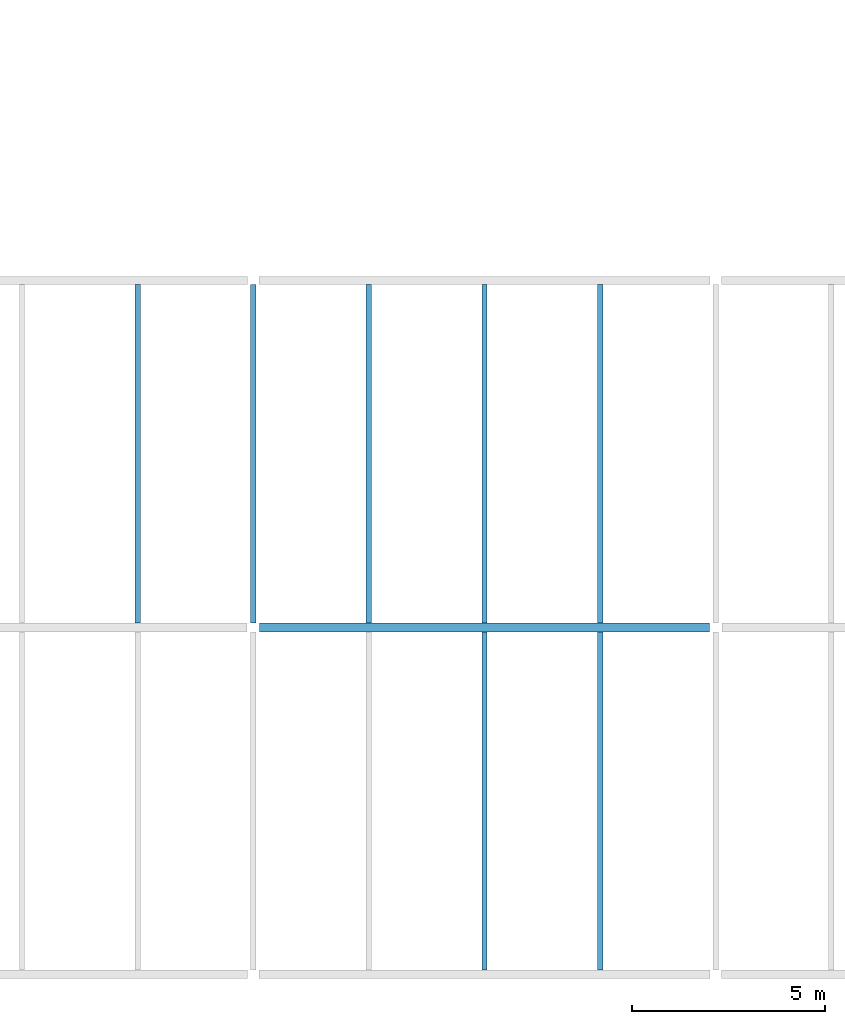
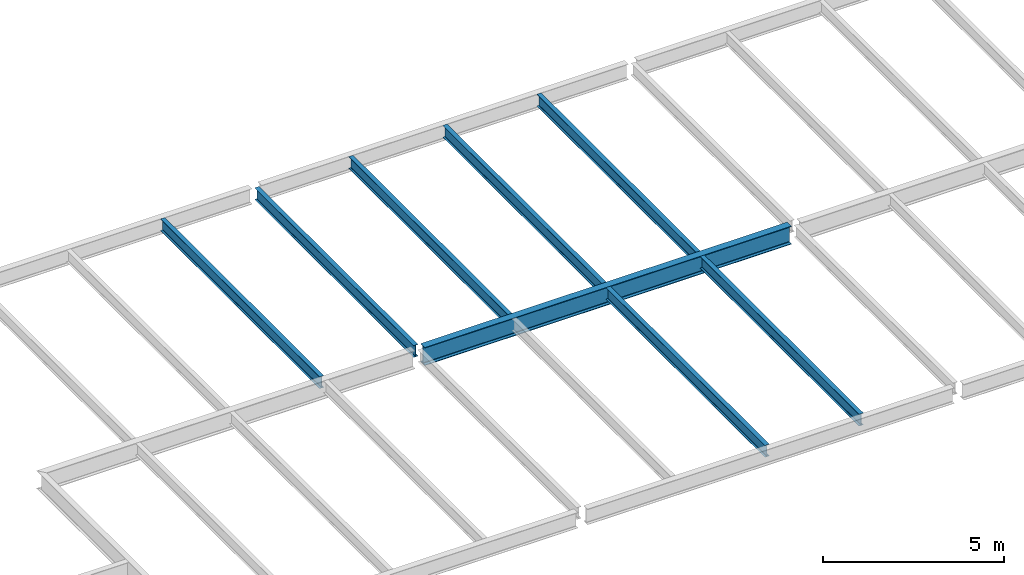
# One storey, part 14 of 23: 8 beams.
"""IFC2X3 building model written with IfcOpenShell, lengths in millimetres."""

from ifc_helpers import new_model, si_unit, origin, place, context, project, spatial, faceted_brep, material, element, save


model = new_model("IFC2X3")

# Units and contexts
context_of_model = context(None, 3, precision=1e-05, world=origin())
ifc_project = project(units=[si_unit("LENGTHUNIT", "METRE", prefix="MILLI")], contexts=[context_of_model])

# Building, storey
building = spatial("IfcBuilding", under=ifc_project, Name="Building", CompositionType="ELEMENT")
storey = spatial("IfcBuildingStorey", under=building, Name="FL5-FRM", CompositionType="ELEMENT")

# Beams
ifc_material_1 = material(Name="A992")
beam_1_placement = place(None, origin())
element("IfcBeam", 1, at=beam_1_placement, inside=storey, material=ifc_material_1, Name="Column582", context=context_of_model, shape_type="Brep", body=[
    faceted_brep([(24157.0, 17885.5, 17261.0), (24157.0, 18114.5, 17261.0), (35843.0, 18114.5, 17261.0), (35843.0, 17885.5, 17261.0), (24157.0, 18114.5, 17280.6), (35843.0, 18114.5, 17280.6), (24157.0, 18018.6, 17280.6), (35843.0, 18018.6, 17280.6), (24157.0, 18015.4, 17281.0), (35843.0, 18015.4, 17281.0), (24157.0, 18012.3, 17282.3), (35843.0, 18012.3, 17282.3), (24157.0, 18009.7, 17284.3), (35843.0, 18009.7, 17284.3), (24157.0, 18007.7, 17287.0), (35843.0, 18007.7, 17287.0), (24157.0, 18006.4, 17290.0), (35843.0, 18006.4, 17290.0), (24157.0, 18005.9, 17293.3), (35843.0, 18005.9, 17293.3), (24157.0, 18005.9, 17840.7), (35843.0, 18005.9, 17840.7), (24157.0, 18006.4, 17844.0), (35843.0, 18006.4, 17844.0), (24157.0, 18007.7, 17847.0), (35843.0, 18007.7, 17847.0), (24157.0, 18009.7, 17849.7), (35843.0, 18009.7, 17849.7), (24157.0, 18012.3, 17851.7), (35843.0, 18012.3, 17851.7), (24157.0, 18015.4, 17853.0), (35843.0, 18015.4, 17853.0), (24157.0, 18018.6, 17853.4), (35843.0, 18018.6, 17853.4), (24157.0, 18114.5, 17853.4), (35843.0, 18114.5, 17853.4), (24157.0, 18114.5, 17873.0), (35843.0, 18114.5, 17873.0), (24157.0, 17885.5, 17873.0), (35843.0, 17885.5, 17873.0), (24157.0, 17885.5, 17853.4), (35843.0, 17885.5, 17853.4), (24157.0, 17981.4, 17853.4), (35843.0, 17981.4, 17853.4), (24157.0, 17984.6, 17853.0), (35843.0, 17984.6, 17853.0), (24157.0, 17987.7, 17851.7), (35843.0, 17987.7, 17851.7), (24157.0, 17990.3, 17849.7), (35843.0, 17990.3, 17849.7), (24157.0, 17992.3, 17847.0), (35843.0, 17992.3, 17847.0), (24157.0, 17993.6, 17844.0), (35843.0, 17993.6, 17844.0), (24157.0, 17994.1, 17840.7), (35843.0, 17994.1, 17840.7), (24157.0, 17994.1, 17293.3), (35843.0, 17994.1, 17293.3), (24157.0, 17993.6, 17290.0), (35843.0, 17993.6, 17290.0), (24157.0, 17992.3, 17287.0), (35843.0, 17992.3, 17287.0), (24157.0, 17990.3, 17284.3), (35843.0, 17990.3, 17284.3), (24157.0, 17987.7, 17282.3), (35843.0, 17987.7, 17282.3), (24157.0, 17984.6, 17281.0), (35843.0, 17984.6, 17281.0), (24157.0, 17981.4, 17280.6), (35843.0, 17981.4, 17280.6), (24157.0, 17885.5, 17280.6), (35843.0, 17885.5, 17280.6)], [[[0, 1, 2, 3]], [[1, 4, 5, 2]], [[4, 6, 7, 5]], [[6, 8, 9, 7]], [[8, 10, 11, 9]], [[10, 12, 13, 11]], [[12, 14, 15, 13]], [[14, 16, 17, 15]], [[16, 18, 19, 17]], [[18, 20, 21, 19]], [[20, 22, 23, 21]], [[22, 24, 25, 23]], [[24, 26, 27, 25]], [[26, 28, 29, 27]], [[28, 30, 31, 29]], [[30, 32, 33, 31]], [[32, 34, 35, 33]], [[34, 36, 37, 35]], [[36, 38, 39, 37]], [[38, 40, 41, 39]], [[40, 42, 43, 41]], [[42, 44, 45, 43]], [[44, 46, 47, 45]], [[46, 48, 49, 47]], [[48, 50, 51, 49]], [[50, 52, 53, 51]], [[52, 54, 55, 53]], [[54, 56, 57, 55]], [[56, 58, 59, 57]], [[58, 60, 61, 59]], [[60, 62, 63, 61]], [[62, 64, 65, 63]], [[64, 66, 67, 65]], [[66, 68, 69, 67]], [[68, 70, 71, 69]], [[70, 0, 3, 71]], [[0, 70, 68, 66, 64, 62, 60, 58, 56, 54, 52, 50, 48, 46, 44, 42, 40, 38, 36, 34, 32, 30, 28, 26, 24, 22, 20, 18, 16, 14, 12, 10, 8, 6, 4, 1]], [[3, 2, 5, 7, 9, 11, 13, 15, 17, 19, 21, 23, 25, 27, 29, 31, 33, 35, 37, 39, 41, 43, 45, 47, 49, 51, 53, 55, 57, 59, 61, 63, 65, 67, 69, 71]]]),
])
ifc_material_2 = material(Name="A992")
beam_2_placement = place(None, origin())
element("IfcBeam", 2, at=beam_2_placement, inside=storey, material=ifc_material_2, Name="B802", context=context_of_model, shape_type="Brep", body=[
    faceted_brep([(26930.0, 26895.5, 17474.0), (27070.0, 26895.5, 17474.0), (27070.0, 18114.5, 17474.0), (26930.0, 18114.5, 17474.0), (27070.0, 26895.5, 17482.8), (27070.0, 18114.5, 17482.8), (27013.4, 26895.5, 17482.8), (27013.4, 18114.5, 17482.8), (27010.8, 26895.5, 17483.1), (27010.8, 18114.5, 17483.1), (27008.3, 26895.5, 17484.2), (27008.3, 18114.5, 17484.2), (27006.2, 26895.5, 17485.8), (27006.2, 18114.5, 17485.8), (27004.6, 26895.5, 17487.9), (27004.6, 18114.5, 17487.9), (27003.5, 26895.5, 17490.4), (27003.5, 18114.5, 17490.4), (27003.2, 26895.5, 17493.0), (27003.2, 18114.5, 17493.0), (27003.2, 26895.5, 17854.0), (27003.2, 18114.5, 17854.0), (27003.5, 26895.5, 17856.6), (27003.5, 18114.5, 17856.6), (27004.6, 26895.5, 17859.1), (27004.6, 18114.5, 17859.1), (27006.2, 26895.5, 17861.2), (27006.2, 18114.5, 17861.2), (27008.3, 26895.5, 17862.8), (27008.3, 18114.5, 17862.8), (27010.8, 26895.5, 17863.9), (27010.8, 18114.5, 17863.9), (27013.4, 26895.5, 17864.2), (27013.4, 18114.5, 17864.2), (27070.0, 26895.5, 17864.2), (27070.0, 18114.5, 17864.2), (27070.0, 26895.5, 17873.0), (27070.0, 18114.5, 17873.0), (26930.0, 26895.5, 17873.0), (26930.0, 18114.5, 17873.0), (26930.0, 26895.5, 17864.2), (26930.0, 18114.5, 17864.2), (26986.6, 26895.5, 17864.2), (26986.6, 18114.5, 17864.2), (26989.2, 26895.5, 17863.9), (26989.2, 18114.5, 17863.9), (26991.7, 26895.5, 17862.8), (26991.7, 18114.5, 17862.8), (26993.8, 26895.5, 17861.2), (26993.8, 18114.5, 17861.2), (26995.4, 26895.5, 17859.1), (26995.4, 18114.5, 17859.1), (26996.5, 26895.5, 17856.6), (26996.5, 18114.5, 17856.6), (26996.8, 26895.5, 17854.0), (26996.8, 18114.5, 17854.0), (26996.8, 26895.5, 17493.0), (26996.8, 18114.5, 17493.0), (26996.5, 26895.5, 17490.4), (26996.5, 18114.5, 17490.4), (26995.4, 26895.5, 17487.9), (26995.4, 18114.5, 17487.9), (26993.8, 26895.5, 17485.8), (26993.8, 18114.5, 17485.8), (26991.7, 26895.5, 17484.2), (26991.7, 18114.5, 17484.2), (26989.2, 26895.5, 17483.1), (26989.2, 18114.5, 17483.1), (26986.6, 26895.5, 17482.8), (26986.6, 18114.5, 17482.8), (26930.0, 26895.5, 17482.8), (26930.0, 18114.5, 17482.8)], [[[0, 1, 2, 3]], [[1, 4, 5, 2]], [[4, 6, 7, 5]], [[6, 8, 9, 7]], [[8, 10, 11, 9]], [[10, 12, 13, 11]], [[12, 14, 15, 13]], [[14, 16, 17, 15]], [[16, 18, 19, 17]], [[18, 20, 21, 19]], [[20, 22, 23, 21]], [[22, 24, 25, 23]], [[24, 26, 27, 25]], [[26, 28, 29, 27]], [[28, 30, 31, 29]], [[30, 32, 33, 31]], [[32, 34, 35, 33]], [[34, 36, 37, 35]], [[36, 38, 39, 37]], [[38, 40, 41, 39]], [[40, 42, 43, 41]], [[42, 44, 45, 43]], [[44, 46, 47, 45]], [[46, 48, 49, 47]], [[48, 50, 51, 49]], [[50, 52, 53, 51]], [[52, 54, 55, 53]], [[54, 56, 57, 55]], [[56, 58, 59, 57]], [[58, 60, 61, 59]], [[60, 62, 63, 61]], [[62, 64, 65, 63]], [[64, 66, 67, 65]], [[66, 68, 69, 67]], [[68, 70, 71, 69]], [[70, 0, 3, 71]], [[0, 70, 68, 66, 64, 62, 60, 58, 56, 54, 52, 50, 48, 46, 44, 42, 40, 38, 36, 34, 32, 30, 28, 26, 24, 22, 20, 18, 16, 14, 12, 10, 8, 6, 4, 1]], [[3, 2, 5, 7, 9, 11, 13, 15, 17, 19, 21, 23, 25, 27, 29, 31, 33, 35, 37, 39, 41, 43, 45, 47, 49, 51, 53, 55, 57, 59, 61, 63, 65, 67, 69, 71]]]),
])
ifc_material_3 = material(Name="A992")
beam_3_placement = place(None, origin())
element("IfcBeam", 3, at=beam_3_placement, inside=storey, material=ifc_material_3, Name="B804", context=context_of_model, shape_type="Brep", body=[
    faceted_brep([(30070.0, 9104.5, 17474.0), (29930.0, 9104.5, 17474.0), (29930.0, 17885.5, 17474.0), (30070.0, 17885.5, 17474.0), (29930.0, 9104.5, 17482.8), (29930.0, 17885.5, 17482.8), (29986.6, 9104.5, 17482.8), (29986.6, 17885.5, 17482.8), (29989.2, 9104.5, 17483.1), (29989.2, 17885.5, 17483.1), (29991.7, 9104.5, 17484.2), (29991.7, 17885.5, 17484.2), (29993.8, 9104.5, 17485.8), (29993.8, 17885.5, 17485.8), (29995.4, 9104.5, 17487.9), (29995.4, 17885.5, 17487.9), (29996.5, 9104.5, 17490.4), (29996.5, 17885.5, 17490.4), (29996.8, 9104.5, 17493.0), (29996.8, 17885.5, 17493.0), (29996.8, 9104.5, 17854.0), (29996.8, 17885.5, 17854.0), (29996.5, 9104.5, 17856.6), (29996.5, 17885.5, 17856.6), (29995.4, 9104.5, 17859.1), (29995.4, 17885.5, 17859.1), (29993.8, 9104.5, 17861.2), (29993.8, 17885.5, 17861.2), (29991.7, 9104.5, 17862.8), (29991.7, 17885.5, 17862.8), (29989.2, 9104.5, 17863.9), (29989.2, 17885.5, 17863.9), (29986.6, 9104.5, 17864.2), (29986.6, 17885.5, 17864.2), (29930.0, 9104.5, 17864.2), (29930.0, 17885.5, 17864.2), (29930.0, 9104.5, 17873.0), (29930.0, 17885.5, 17873.0), (30070.0, 9104.5, 17873.0), (30070.0, 17885.5, 17873.0), (30070.0, 9104.5, 17864.2), (30070.0, 17885.5, 17864.2), (30013.4, 9104.5, 17864.2), (30013.4, 17885.5, 17864.2), (30010.8, 9104.5, 17863.9), (30010.8, 17885.5, 17863.9), (30008.3, 9104.5, 17862.8), (30008.3, 17885.5, 17862.8), (30006.2, 9104.5, 17861.2), (30006.2, 17885.5, 17861.2), (30004.6, 9104.5, 17859.1), (30004.6, 17885.5, 17859.1), (30003.5, 9104.5, 17856.6), (30003.5, 17885.5, 17856.6), (30003.2, 9104.5, 17854.0), (30003.2, 17885.5, 17854.0), (30003.2, 9104.5, 17493.0), (30003.2, 17885.5, 17493.0), (30003.5, 9104.5, 17490.4), (30003.5, 17885.5, 17490.4), (30004.6, 9104.5, 17487.9), (30004.6, 17885.5, 17487.9), (30006.2, 9104.5, 17485.8), (30006.2, 17885.5, 17485.8), (30008.3, 9104.5, 17484.2), (30008.3, 17885.5, 17484.2), (30010.8, 9104.5, 17483.1), (30010.8, 17885.5, 17483.1), (30013.4, 9104.5, 17482.8), (30013.4, 17885.5, 17482.8), (30070.0, 9104.5, 17482.8), (30070.0, 17885.5, 17482.8)], [[[0, 1, 2, 3]], [[1, 4, 5, 2]], [[4, 6, 7, 5]], [[6, 8, 9, 7]], [[8, 10, 11, 9]], [[10, 12, 13, 11]], [[12, 14, 15, 13]], [[14, 16, 17, 15]], [[16, 18, 19, 17]], [[18, 20, 21, 19]], [[20, 22, 23, 21]], [[22, 24, 25, 23]], [[24, 26, 27, 25]], [[26, 28, 29, 27]], [[28, 30, 31, 29]], [[30, 32, 33, 31]], [[32, 34, 35, 33]], [[34, 36, 37, 35]], [[36, 38, 39, 37]], [[38, 40, 41, 39]], [[40, 42, 43, 41]], [[42, 44, 45, 43]], [[44, 46, 47, 45]], [[46, 48, 49, 47]], [[48, 50, 51, 49]], [[50, 52, 53, 51]], [[52, 54, 55, 53]], [[54, 56, 57, 55]], [[56, 58, 59, 57]], [[58, 60, 61, 59]], [[60, 62, 63, 61]], [[62, 64, 65, 63]], [[64, 66, 67, 65]], [[66, 68, 69, 67]], [[68, 70, 71, 69]], [[70, 0, 3, 71]], [[0, 70, 68, 66, 64, 62, 60, 58, 56, 54, 52, 50, 48, 46, 44, 42, 40, 38, 36, 34, 32, 30, 28, 26, 24, 22, 20, 18, 16, 14, 12, 10, 8, 6, 4, 1]], [[3, 2, 5, 7, 9, 11, 13, 15, 17, 19, 21, 23, 25, 27, 29, 31, 33, 35, 37, 39, 41, 43, 45, 47, 49, 51, 53, 55, 57, 59, 61, 63, 65, 67, 69, 71]]]),
])
ifc_material_4 = material(Name="A992")
beam_4_placement = place(None, origin())
element("IfcBeam", 4, at=beam_4_placement, inside=storey, material=ifc_material_4, Name="B805", context=context_of_model, shape_type="Brep", body=[
    faceted_brep([(29930.0, 26895.5, 17474.0), (30070.0, 26895.5, 17474.0), (30070.0, 18114.5, 17474.0), (29930.0, 18114.5, 17474.0), (30070.0, 26895.5, 17482.8), (30070.0, 18114.5, 17482.8), (30013.4, 26895.5, 17482.8), (30013.4, 18114.5, 17482.8), (30010.8, 26895.5, 17483.1), (30010.8, 18114.5, 17483.1), (30008.3, 26895.5, 17484.2), (30008.3, 18114.5, 17484.2), (30006.2, 26895.5, 17485.8), (30006.2, 18114.5, 17485.8), (30004.6, 26895.5, 17487.9), (30004.6, 18114.5, 17487.9), (30003.5, 26895.5, 17490.4), (30003.5, 18114.5, 17490.4), (30003.2, 26895.5, 17493.0), (30003.2, 18114.5, 17493.0), (30003.2, 26895.5, 17854.0), (30003.2, 18114.5, 17854.0), (30003.5, 26895.5, 17856.6), (30003.5, 18114.5, 17856.6), (30004.6, 26895.5, 17859.1), (30004.6, 18114.5, 17859.1), (30006.2, 26895.5, 17861.2), (30006.2, 18114.5, 17861.2), (30008.3, 26895.5, 17862.8), (30008.3, 18114.5, 17862.8), (30010.8, 26895.5, 17863.9), (30010.8, 18114.5, 17863.9), (30013.4, 26895.5, 17864.2), (30013.4, 18114.5, 17864.2), (30070.0, 26895.5, 17864.2), (30070.0, 18114.5, 17864.2), (30070.0, 26895.5, 17873.0), (30070.0, 18114.5, 17873.0), (29930.0, 26895.5, 17873.0), (29930.0, 18114.5, 17873.0), (29930.0, 26895.5, 17864.2), (29930.0, 18114.5, 17864.2), (29986.6, 26895.5, 17864.2), (29986.6, 18114.5, 17864.2), (29989.2, 26895.5, 17863.9), (29989.2, 18114.5, 17863.9), (29991.7, 26895.5, 17862.8), (29991.7, 18114.5, 17862.8), (29993.8, 26895.5, 17861.2), (29993.8, 18114.5, 17861.2), (29995.4, 26895.5, 17859.1), (29995.4, 18114.5, 17859.1), (29996.5, 26895.5, 17856.6), (29996.5, 18114.5, 17856.6), (29996.8, 26895.5, 17854.0), (29996.8, 18114.5, 17854.0), (29996.8, 26895.5, 17493.0), (29996.8, 18114.5, 17493.0), (29996.5, 26895.5, 17490.4), (29996.5, 18114.5, 17490.4), (29995.4, 26895.5, 17487.9), (29995.4, 18114.5, 17487.9), (29993.8, 26895.5, 17485.8), (29993.8, 18114.5, 17485.8), (29991.7, 26895.5, 17484.2), (29991.7, 18114.5, 17484.2), (29989.2, 26895.5, 17483.1), (29989.2, 18114.5, 17483.1), (29986.6, 26895.5, 17482.8), (29986.6, 18114.5, 17482.8), (29930.0, 26895.5, 17482.8), (29930.0, 18114.5, 17482.8)], [[[0, 1, 2, 3]], [[1, 4, 5, 2]], [[4, 6, 7, 5]], [[6, 8, 9, 7]], [[8, 10, 11, 9]], [[10, 12, 13, 11]], [[12, 14, 15, 13]], [[14, 16, 17, 15]], [[16, 18, 19, 17]], [[18, 20, 21, 19]], [[20, 22, 23, 21]], [[22, 24, 25, 23]], [[24, 26, 27, 25]], [[26, 28, 29, 27]], [[28, 30, 31, 29]], [[30, 32, 33, 31]], [[32, 34, 35, 33]], [[34, 36, 37, 35]], [[36, 38, 39, 37]], [[38, 40, 41, 39]], [[40, 42, 43, 41]], [[42, 44, 45, 43]], [[44, 46, 47, 45]], [[46, 48, 49, 47]], [[48, 50, 51, 49]], [[50, 52, 53, 51]], [[52, 54, 55, 53]], [[54, 56, 57, 55]], [[56, 58, 59, 57]], [[58, 60, 61, 59]], [[60, 62, 63, 61]], [[62, 64, 65, 63]], [[64, 66, 67, 65]], [[66, 68, 69, 67]], [[68, 70, 71, 69]], [[70, 0, 3, 71]], [[0, 70, 68, 66, 64, 62, 60, 58, 56, 54, 52, 50, 48, 46, 44, 42, 40, 38, 36, 34, 32, 30, 28, 26, 24, 22, 20, 18, 16, 14, 12, 10, 8, 6, 4, 1]], [[3, 2, 5, 7, 9, 11, 13, 15, 17, 19, 21, 23, 25, 27, 29, 31, 33, 35, 37, 39, 41, 43, 45, 47, 49, 51, 53, 55, 57, 59, 61, 63, 65, 67, 69, 71]]]),
])
ifc_material_5 = material(Name="A992")
beam_5_placement = place(None, origin())
element("IfcBeam", 5, at=beam_5_placement, inside=storey, material=ifc_material_5, Name="B806", context=context_of_model, shape_type="Brep", body=[
    faceted_brep([(32930.0, 26895.5, 17474.0), (33070.0, 26895.5, 17474.0), (33070.0, 18114.5, 17474.0), (32930.0, 18114.5, 17474.0), (33070.0, 26895.5, 17482.8), (33070.0, 18114.5, 17482.8), (33013.4, 26895.5, 17482.8), (33013.4, 18114.5, 17482.8), (33010.8, 26895.5, 17483.1), (33010.8, 18114.5, 17483.1), (33008.3, 26895.5, 17484.2), (33008.3, 18114.5, 17484.2), (33006.2, 26895.5, 17485.8), (33006.2, 18114.5, 17485.8), (33004.6, 26895.5, 17487.9), (33004.6, 18114.5, 17487.9), (33003.5, 26895.5, 17490.4), (33003.5, 18114.5, 17490.4), (33003.2, 26895.5, 17493.0), (33003.2, 18114.5, 17493.0), (33003.2, 26895.5, 17854.0), (33003.2, 18114.5, 17854.0), (33003.5, 26895.5, 17856.6), (33003.5, 18114.5, 17856.6), (33004.6, 26895.5, 17859.1), (33004.6, 18114.5, 17859.1), (33006.2, 26895.5, 17861.2), (33006.2, 18114.5, 17861.2), (33008.3, 26895.5, 17862.8), (33008.3, 18114.5, 17862.8), (33010.8, 26895.5, 17863.9), (33010.8, 18114.5, 17863.9), (33013.4, 26895.5, 17864.2), (33013.4, 18114.5, 17864.2), (33070.0, 26895.5, 17864.2), (33070.0, 18114.5, 17864.2), (33070.0, 26895.5, 17873.0), (33070.0, 18114.5, 17873.0), (32930.0, 26895.5, 17873.0), (32930.0, 18114.5, 17873.0), (32930.0, 26895.5, 17864.2), (32930.0, 18114.5, 17864.2), (32986.6, 26895.5, 17864.2), (32986.6, 18114.5, 17864.2), (32989.2, 26895.5, 17863.9), (32989.2, 18114.5, 17863.9), (32991.7, 26895.5, 17862.8), (32991.7, 18114.5, 17862.8), (32993.8, 26895.5, 17861.2), (32993.8, 18114.5, 17861.2), (32995.4, 26895.5, 17859.1), (32995.4, 18114.5, 17859.1), (32996.5, 26895.5, 17856.6), (32996.5, 18114.5, 17856.6), (32996.8, 26895.5, 17854.0), (32996.8, 18114.5, 17854.0), (32996.8, 26895.5, 17493.0), (32996.8, 18114.5, 17493.0), (32996.5, 26895.5, 17490.4), (32996.5, 18114.5, 17490.4), (32995.4, 26895.5, 17487.9), (32995.4, 18114.5, 17487.9), (32993.8, 26895.5, 17485.8), (32993.8, 18114.5, 17485.8), (32991.7, 26895.5, 17484.2), (32991.7, 18114.5, 17484.2), (32989.2, 26895.5, 17483.1), (32989.2, 18114.5, 17483.1), (32986.6, 26895.5, 17482.8), (32986.6, 18114.5, 17482.8), (32930.0, 26895.5, 17482.8), (32930.0, 18114.5, 17482.8)], [[[0, 1, 2, 3]], [[1, 4, 5, 2]], [[4, 6, 7, 5]], [[6, 8, 9, 7]], [[8, 10, 11, 9]], [[10, 12, 13, 11]], [[12, 14, 15, 13]], [[14, 16, 17, 15]], [[16, 18, 19, 17]], [[18, 20, 21, 19]], [[20, 22, 23, 21]], [[22, 24, 25, 23]], [[24, 26, 27, 25]], [[26, 28, 29, 27]], [[28, 30, 31, 29]], [[30, 32, 33, 31]], [[32, 34, 35, 33]], [[34, 36, 37, 35]], [[36, 38, 39, 37]], [[38, 40, 41, 39]], [[40, 42, 43, 41]], [[42, 44, 45, 43]], [[44, 46, 47, 45]], [[46, 48, 49, 47]], [[48, 50, 51, 49]], [[50, 52, 53, 51]], [[52, 54, 55, 53]], [[54, 56, 57, 55]], [[56, 58, 59, 57]], [[58, 60, 61, 59]], [[60, 62, 63, 61]], [[62, 64, 65, 63]], [[64, 66, 67, 65]], [[66, 68, 69, 67]], [[68, 70, 71, 69]], [[70, 0, 3, 71]], [[0, 70, 68, 66, 64, 62, 60, 58, 56, 54, 52, 50, 48, 46, 44, 42, 40, 38, 36, 34, 32, 30, 28, 26, 24, 22, 20, 18, 16, 14, 12, 10, 8, 6, 4, 1]], [[3, 2, 5, 7, 9, 11, 13, 15, 17, 19, 21, 23, 25, 27, 29, 31, 33, 35, 37, 39, 41, 43, 45, 47, 49, 51, 53, 55, 57, 59, 61, 63, 65, 67, 69, 71]]]),
])
ifc_material_6 = material(Name="A992")
beam_6_placement = place(None, origin())
element("IfcBeam", 6, at=beam_6_placement, inside=storey, material=ifc_material_6, Name="B807", context=context_of_model, shape_type="Brep", body=[
    faceted_brep([(33070.0, 9104.5, 17474.0), (32930.0, 9104.5, 17474.0), (32930.0, 17885.5, 17474.0), (33070.0, 17885.5, 17474.0), (32930.0, 9104.5, 17482.8), (32930.0, 17885.5, 17482.8), (32986.6, 9104.5, 17482.8), (32986.6, 17885.5, 17482.8), (32989.2, 9104.5, 17483.1), (32989.2, 17885.5, 17483.1), (32991.7, 9104.5, 17484.2), (32991.7, 17885.5, 17484.2), (32993.8, 9104.5, 17485.8), (32993.8, 17885.5, 17485.8), (32995.4, 9104.5, 17487.9), (32995.4, 17885.5, 17487.9), (32996.5, 9104.5, 17490.4), (32996.5, 17885.5, 17490.4), (32996.8, 9104.5, 17493.0), (32996.8, 17885.5, 17493.0), (32996.8, 9104.5, 17854.0), (32996.8, 17885.5, 17854.0), (32996.5, 9104.5, 17856.6), (32996.5, 17885.5, 17856.6), (32995.4, 9104.5, 17859.1), (32995.4, 17885.5, 17859.1), (32993.8, 9104.5, 17861.2), (32993.8, 17885.5, 17861.2), (32991.7, 9104.5, 17862.8), (32991.7, 17885.5, 17862.8), (32989.2, 9104.5, 17863.9), (32989.2, 17885.5, 17863.9), (32986.6, 9104.5, 17864.2), (32986.6, 17885.5, 17864.2), (32930.0, 9104.5, 17864.2), (32930.0, 17885.5, 17864.2), (32930.0, 9104.5, 17873.0), (32930.0, 17885.5, 17873.0), (33070.0, 9104.5, 17873.0), (33070.0, 17885.5, 17873.0), (33070.0, 9104.5, 17864.2), (33070.0, 17885.5, 17864.2), (33013.4, 9104.5, 17864.2), (33013.4, 17885.5, 17864.2), (33010.8, 9104.5, 17863.9), (33010.8, 17885.5, 17863.9), (33008.3, 9104.5, 17862.8), (33008.3, 17885.5, 17862.8), (33006.2, 9104.5, 17861.2), (33006.2, 17885.5, 17861.2), (33004.6, 9104.5, 17859.1), (33004.6, 17885.5, 17859.1), (33003.5, 9104.5, 17856.6), (33003.5, 17885.5, 17856.6), (33003.2, 9104.5, 17854.0), (33003.2, 17885.5, 17854.0), (33003.2, 9104.5, 17493.0), (33003.2, 17885.5, 17493.0), (33003.5, 9104.5, 17490.4), (33003.5, 17885.5, 17490.4), (33004.6, 9104.5, 17487.9), (33004.6, 17885.5, 17487.9), (33006.2, 9104.5, 17485.8), (33006.2, 17885.5, 17485.8), (33008.3, 9104.5, 17484.2), (33008.3, 17885.5, 17484.2), (33010.8, 9104.5, 17483.1), (33010.8, 17885.5, 17483.1), (33013.4, 9104.5, 17482.8), (33013.4, 17885.5, 17482.8), (33070.0, 9104.5, 17482.8), (33070.0, 17885.5, 17482.8)], [[[0, 1, 2, 3]], [[1, 4, 5, 2]], [[4, 6, 7, 5]], [[6, 8, 9, 7]], [[8, 10, 11, 9]], [[10, 12, 13, 11]], [[12, 14, 15, 13]], [[14, 16, 17, 15]], [[16, 18, 19, 17]], [[18, 20, 21, 19]], [[20, 22, 23, 21]], [[22, 24, 25, 23]], [[24, 26, 27, 25]], [[26, 28, 29, 27]], [[28, 30, 31, 29]], [[30, 32, 33, 31]], [[32, 34, 35, 33]], [[34, 36, 37, 35]], [[36, 38, 39, 37]], [[38, 40, 41, 39]], [[40, 42, 43, 41]], [[42, 44, 45, 43]], [[44, 46, 47, 45]], [[46, 48, 49, 47]], [[48, 50, 51, 49]], [[50, 52, 53, 51]], [[52, 54, 55, 53]], [[54, 56, 57, 55]], [[56, 58, 59, 57]], [[58, 60, 61, 59]], [[60, 62, 63, 61]], [[62, 64, 65, 63]], [[64, 66, 67, 65]], [[66, 68, 69, 67]], [[68, 70, 71, 69]], [[70, 0, 3, 71]], [[0, 70, 68, 66, 64, 62, 60, 58, 56, 54, 52, 50, 48, 46, 44, 42, 40, 38, 36, 34, 32, 30, 28, 26, 24, 22, 20, 18, 16, 14, 12, 10, 8, 6, 4, 1]], [[3, 2, 5, 7, 9, 11, 13, 15, 17, 19, 21, 23, 25, 27, 29, 31, 33, 35, 37, 39, 41, 43, 45, 47, 49, 51, 53, 55, 57, 59, 61, 63, 65, 67, 69, 71]]]),
])
ifc_material_7 = material(Name="A992")
beam_7_placement = place(None, origin())
element("IfcBeam", 7, at=beam_7_placement, inside=storey, material=ifc_material_7, Name="B809", context=context_of_model, shape_type="Brep", body=[
    faceted_brep([(24070.0, 18114.5, 17474.0), (23930.0, 18114.5, 17474.0), (23930.0, 26895.5, 17474.0), (24070.0, 26895.5, 17474.0), (23930.0, 18114.5, 17482.8), (23930.0, 26895.5, 17482.8), (23986.6, 18114.5, 17482.8), (23986.6, 26895.5, 17482.8), (23989.2, 18114.5, 17483.1), (23989.2, 26895.5, 17483.1), (23991.7, 18114.5, 17484.2), (23991.7, 26895.5, 17484.2), (23993.8, 18114.5, 17485.8), (23993.8, 26895.5, 17485.8), (23995.4, 18114.5, 17487.9), (23995.4, 26895.5, 17487.9), (23996.5, 18114.5, 17490.4), (23996.5, 26895.5, 17490.4), (23996.8, 18114.5, 17493.0), (23996.8, 26895.5, 17493.0), (23996.8, 18114.5, 17854.0), (23996.8, 26895.5, 17854.0), (23996.5, 18114.5, 17856.6), (23996.5, 26895.5, 17856.6), (23995.4, 18114.5, 17859.1), (23995.4, 26895.5, 17859.1), (23993.8, 18114.5, 17861.2), (23993.8, 26895.5, 17861.2), (23991.7, 18114.5, 17862.8), (23991.7, 26895.5, 17862.8), (23989.2, 18114.5, 17863.9), (23989.2, 26895.5, 17863.9), (23986.6, 18114.5, 17864.2), (23986.6, 26895.5, 17864.2), (23930.0, 18114.5, 17864.2), (23930.0, 26895.5, 17864.2), (23930.0, 18114.5, 17873.0), (23930.0, 26895.5, 17873.0), (24070.0, 18114.5, 17873.0), (24070.0, 26895.5, 17873.0), (24070.0, 18114.5, 17864.2), (24070.0, 26895.5, 17864.2), (24013.4, 18114.5, 17864.2), (24013.4, 26895.5, 17864.2), (24010.8, 18114.5, 17863.9), (24010.8, 26895.5, 17863.9), (24008.3, 18114.5, 17862.8), (24008.3, 26895.5, 17862.8), (24006.2, 18114.5, 17861.2), (24006.2, 26895.5, 17861.2), (24004.6, 18114.5, 17859.1), (24004.6, 26895.5, 17859.1), (24003.5, 18114.5, 17856.6), (24003.5, 26895.5, 17856.6), (24003.2, 18114.5, 17854.0), (24003.2, 26895.5, 17854.0), (24003.2, 18114.5, 17493.0), (24003.2, 26895.5, 17493.0), (24003.5, 18114.5, 17490.4), (24003.5, 26895.5, 17490.4), (24004.6, 18114.5, 17487.9), (24004.6, 26895.5, 17487.9), (24006.2, 18114.5, 17485.8), (24006.2, 26895.5, 17485.8), (24008.3, 18114.5, 17484.2), (24008.3, 26895.5, 17484.2), (24010.8, 18114.5, 17483.1), (24010.8, 26895.5, 17483.1), (24013.4, 18114.5, 17482.8), (24013.4, 26895.5, 17482.8), (24070.0, 18114.5, 17482.8), (24070.0, 26895.5, 17482.8)], [[[0, 1, 2, 3]], [[1, 4, 5, 2]], [[4, 6, 7, 5]], [[6, 8, 9, 7]], [[8, 10, 11, 9]], [[10, 12, 13, 11]], [[12, 14, 15, 13]], [[14, 16, 17, 15]], [[16, 18, 19, 17]], [[18, 20, 21, 19]], [[20, 22, 23, 21]], [[22, 24, 25, 23]], [[24, 26, 27, 25]], [[26, 28, 29, 27]], [[28, 30, 31, 29]], [[30, 32, 33, 31]], [[32, 34, 35, 33]], [[34, 36, 37, 35]], [[36, 38, 39, 37]], [[38, 40, 41, 39]], [[40, 42, 43, 41]], [[42, 44, 45, 43]], [[44, 46, 47, 45]], [[46, 48, 49, 47]], [[48, 50, 51, 49]], [[50, 52, 53, 51]], [[52, 54, 55, 53]], [[54, 56, 57, 55]], [[56, 58, 59, 57]], [[58, 60, 61, 59]], [[60, 62, 63, 61]], [[62, 64, 65, 63]], [[64, 66, 67, 65]], [[66, 68, 69, 67]], [[68, 70, 71, 69]], [[70, 0, 3, 71]], [[0, 70, 68, 66, 64, 62, 60, 58, 56, 54, 52, 50, 48, 46, 44, 42, 40, 38, 36, 34, 32, 30, 28, 26, 24, 22, 20, 18, 16, 14, 12, 10, 8, 6, 4, 1]], [[3, 2, 5, 7, 9, 11, 13, 15, 17, 19, 21, 23, 25, 27, 29, 31, 33, 35, 37, 39, 41, 43, 45, 47, 49, 51, 53, 55, 57, 59, 61, 63, 65, 67, 69, 71]]]),
])
ifc_material_8 = material(Name="A992")
beam_8_placement = place(None, origin())
element("IfcBeam", 8, at=beam_8_placement, inside=storey, material=ifc_material_8, Name="B812", context=context_of_model, shape_type="Brep", body=[
    faceted_brep([(20930.0, 26895.5, 17474.0), (21070.0, 26895.5, 17474.0), (21070.0, 18114.5, 17474.0), (20930.0, 18114.5, 17474.0), (21070.0, 26895.5, 17482.8), (21070.0, 18114.5, 17482.8), (21013.4, 26895.5, 17482.8), (21013.4, 18114.5, 17482.8), (21010.8, 26895.5, 17483.1), (21010.8, 18114.5, 17483.1), (21008.3, 26895.5, 17484.2), (21008.3, 18114.5, 17484.2), (21006.2, 26895.5, 17485.8), (21006.2, 18114.5, 17485.8), (21004.6, 26895.5, 17487.9), (21004.6, 18114.5, 17487.9), (21003.5, 26895.5, 17490.4), (21003.5, 18114.5, 17490.4), (21003.2, 26895.5, 17493.0), (21003.2, 18114.5, 17493.0), (21003.2, 26895.5, 17854.0), (21003.2, 18114.5, 17854.0), (21003.5, 26895.5, 17856.6), (21003.5, 18114.5, 17856.6), (21004.6, 26895.5, 17859.1), (21004.6, 18114.5, 17859.1), (21006.2, 26895.5, 17861.2), (21006.2, 18114.5, 17861.2), (21008.3, 26895.5, 17862.8), (21008.3, 18114.5, 17862.8), (21010.8, 26895.5, 17863.9), (21010.8, 18114.5, 17863.9), (21013.4, 26895.5, 17864.2), (21013.4, 18114.5, 17864.2), (21070.0, 26895.5, 17864.2), (21070.0, 18114.5, 17864.2), (21070.0, 26895.5, 17873.0), (21070.0, 18114.5, 17873.0), (20930.0, 26895.5, 17873.0), (20930.0, 18114.5, 17873.0), (20930.0, 26895.5, 17864.2), (20930.0, 18114.5, 17864.2), (20986.6, 26895.5, 17864.2), (20986.6, 18114.5, 17864.2), (20989.2, 26895.5, 17863.9), (20989.2, 18114.5, 17863.9), (20991.7, 26895.5, 17862.8), (20991.7, 18114.5, 17862.8), (20993.8, 26895.5, 17861.2), (20993.8, 18114.5, 17861.2), (20995.4, 26895.5, 17859.1), (20995.4, 18114.5, 17859.1), (20996.5, 26895.5, 17856.6), (20996.5, 18114.5, 17856.6), (20996.8, 26895.5, 17854.0), (20996.8, 18114.5, 17854.0), (20996.8, 26895.5, 17493.0), (20996.8, 18114.5, 17493.0), (20996.5, 26895.5, 17490.4), (20996.5, 18114.5, 17490.4), (20995.4, 26895.5, 17487.9), (20995.4, 18114.5, 17487.9), (20993.8, 26895.5, 17485.8), (20993.8, 18114.5, 17485.8), (20991.7, 26895.5, 17484.2), (20991.7, 18114.5, 17484.2), (20989.2, 26895.5, 17483.1), (20989.2, 18114.5, 17483.1), (20986.6, 26895.5, 17482.8), (20986.6, 18114.5, 17482.8), (20930.0, 26895.5, 17482.8), (20930.0, 18114.5, 17482.8)], [[[0, 1, 2, 3]], [[1, 4, 5, 2]], [[4, 6, 7, 5]], [[6, 8, 9, 7]], [[8, 10, 11, 9]], [[10, 12, 13, 11]], [[12, 14, 15, 13]], [[14, 16, 17, 15]], [[16, 18, 19, 17]], [[18, 20, 21, 19]], [[20, 22, 23, 21]], [[22, 24, 25, 23]], [[24, 26, 27, 25]], [[26, 28, 29, 27]], [[28, 30, 31, 29]], [[30, 32, 33, 31]], [[32, 34, 35, 33]], [[34, 36, 37, 35]], [[36, 38, 39, 37]], [[38, 40, 41, 39]], [[40, 42, 43, 41]], [[42, 44, 45, 43]], [[44, 46, 47, 45]], [[46, 48, 49, 47]], [[48, 50, 51, 49]], [[50, 52, 53, 51]], [[52, 54, 55, 53]], [[54, 56, 57, 55]], [[56, 58, 59, 57]], [[58, 60, 61, 59]], [[60, 62, 63, 61]], [[62, 64, 65, 63]], [[64, 66, 67, 65]], [[66, 68, 69, 67]], [[68, 70, 71, 69]], [[70, 0, 3, 71]], [[0, 70, 68, 66, 64, 62, 60, 58, 56, 54, 52, 50, 48, 46, 44, 42, 40, 38, 36, 34, 32, 30, 28, 26, 24, 22, 20, 18, 16, 14, 12, 10, 8, 6, 4, 1]], [[3, 2, 5, 7, 9, 11, 13, 15, 17, 19, 21, 23, 25, 27, 29, 31, 33, 35, 37, 39, 41, 43, 45, 47, 49, 51, 53, 55, 57, 59, 61, 63, 65, 67, 69, 71]]]),
])

save(model, "model.ifc")
